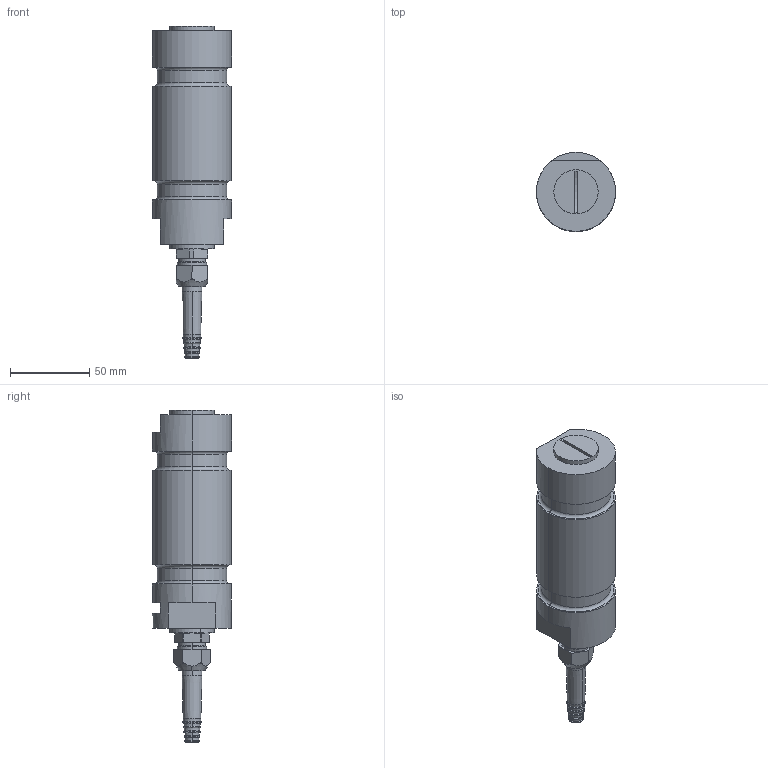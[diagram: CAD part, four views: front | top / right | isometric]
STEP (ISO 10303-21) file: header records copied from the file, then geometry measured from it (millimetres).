
FILE_DESCRIPTION (( 'STEP AP214' ), '1' );
FILE_NAME ('KOSD-40 100 kN Load Cell.STEP', '2021-03-15T09:59:21', ( '' ), ( '' ), 'SwSTEP 2.0', 'SolidWorks 2021', '' );
FILE_SCHEMA (( 'AUTOMOTIVE_DESIGN' ));
Length unit declared in the file: millimetre
Products named in the file (5): KOSD-40 100 kN Load Cell; M26x1.5 - Pg9 - 6369829; pg 9 kabelförskruvning; 4095971r4; M26x1.5 - Lock - 600490r1
Assembly tree (4 placements, depth 2):
  KOSD-40 100 kN Load Cell
    4095971r4
    M26x1.5 - Pg9 - 6369829
    M26x1.5 - Lock - 600490r1
    pg 9 kabelförskruvning
Bounding box: 50 x 50 x 210 mm (x, y, z)
Volume: 263846.7 mm3; surface area: 38979.7 mm2
Topology: 4 solids, 7 shells, 210 faces, 468 edges, 289 vertices
Faces by surface type: cylinder 65, plane 55, cone 46, bspline 26, torus 18
Entity records: 7377 total; most frequent: CARTESIAN_POINT 1524, DIRECTION 1094, ORIENTED_EDGE 932, AXIS2_PLACEMENT_3D 467, EDGE_CURVE 466, VERTEX_POINT 289, CIRCLE 276, EDGE_LOOP 239
